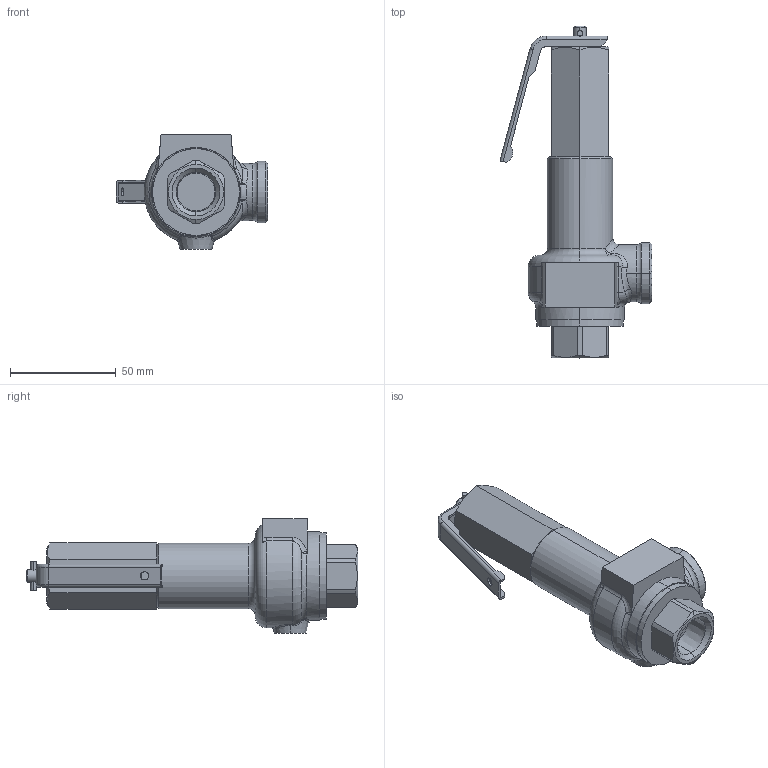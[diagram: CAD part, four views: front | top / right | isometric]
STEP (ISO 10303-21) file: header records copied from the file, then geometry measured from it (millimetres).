
FILE_DESCRIPTION (( 'STEP AP203' ), '1' );
FILE_NAME ('AL-150ML 15A.STEP', '2026-01-08T02:23:16', ( '' ), ( '' ), 'SwSTEP 2.0', 'SolidWorks 2024', '' );
FILE_SCHEMA (( 'CONFIG_CONTROL_DESIGN' ));
Length unit declared in the file: millimetre
Products named in the file (3): AL-150ML 15A; AL-12 Lever; AL-150ML 15A(Non-Lever)
Assembly tree (2 placements, depth 2):
  AL-150ML 15A
    AL-150ML 15A(Non-Lever)
    AL-12 Lever
Bounding box: 71.78 x 156.75 x 54 mm (x, y, z)
Volume: 140063.2 mm3; surface area: 25227.6 mm2
Topology: 2 solids, 2 shells, 181 faces, 438 edges, 265 vertices
Faces by surface type: plane 61, cylinder 54, cone 24, torus 18, bspline 18, sphere 6
Entity records: 7114 total; most frequent: CARTESIAN_POINT 2648, DIRECTION 897, ORIENTED_EDGE 872, EDGE_CURVE 436, AXIS2_PLACEMENT_3D 360, VERTEX_POINT 265, CIRCLE 192, EDGE_LOOP 191
